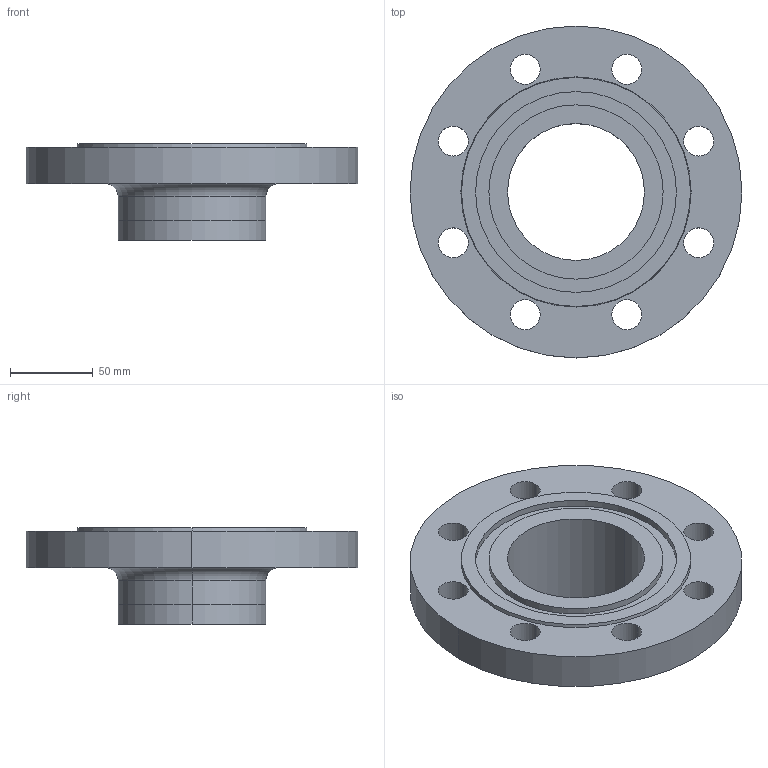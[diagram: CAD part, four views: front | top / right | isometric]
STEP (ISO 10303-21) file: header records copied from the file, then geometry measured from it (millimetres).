
FILE_DESCRIPTION (( 'STEP AP214' ), '1' );
FILE_NAME ('PN40 DN80 Type 11 - Type D Face.STEP', '2019-01-01T19:42:34', ( '' ), ( '' ), 'SwSTEP 2.0', 'SolidWorks 2019', '' );
FILE_SCHEMA (( 'AUTOMOTIVE_DESIGN' ));
Length unit declared in the file: millimetre
Products named in the file (1): PN40 DN80 Type 11 - Type D Face
Bounding box: 200 x 200 x 58 mm (x, y, z)
Volume: 570273.1 mm3; surface area: 99001.6 mm2
Topology: 1 solids, 1 shells, 40 faces, 96 edges, 62 vertices
Faces by surface type: cylinder 26, plane 6, torus 4, cone 4
Entity records: 1268 total; most frequent: DIRECTION 244, CARTESIAN_POINT 199, ORIENTED_EDGE 192, AXIS2_PLACEMENT_3D 107, EDGE_CURVE 96, CIRCLE 66, EDGE_LOOP 62, VERTEX_POINT 62
